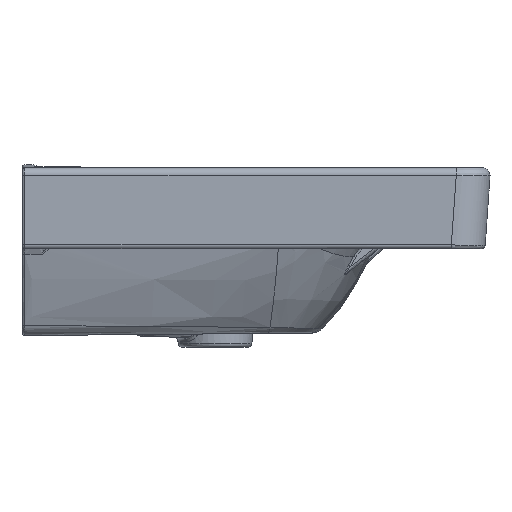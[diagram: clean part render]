
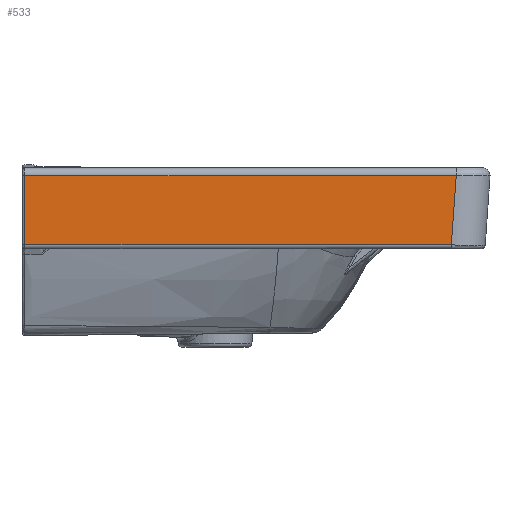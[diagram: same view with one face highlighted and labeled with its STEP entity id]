
A CAD part, left-side view. The second image highlights one B-rep face of the part: STEP entity #533.
In plain terms, the highlighted planar face has unit normal (-1, 0, -0.018).
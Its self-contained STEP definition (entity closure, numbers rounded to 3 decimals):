
#533=ADVANCED_FACE('',(#782),#572,.T.);
#572=PLANE('',#3794);
#782=FACE_OUTER_BOUND('',#1012,.T.);
#1012=EDGE_LOOP('',(#2279,#2280,#2281,#2282));
#1189=LINE('',#14391,#1280);
#1196=LINE('',#17156,#1287);
#1197=LINE('',#17158,#1288);
#1280=VECTOR('',#4126,1.);
#1287=VECTOR('',#4199,1.);
#1288=VECTOR('',#4200,1.);
#2279=ORIENTED_EDGE('',*,*,#3188,.T.);
#2280=ORIENTED_EDGE('',*,*,#3274,.F.);
#2281=ORIENTED_EDGE('',*,*,#3275,.F.);
#2282=ORIENTED_EDGE('',*,*,#3273,.T.);
#2691=VERTEX_POINT('',#14390);
#2692=VERTEX_POINT('',#14392);
#2736=VERTEX_POINT('',#17142);
#2737=VERTEX_POINT('',#17157);
#3188=EDGE_CURVE('',#2692,#2691,#1189,.T.);
#3273=EDGE_CURVE('',#2736,#2692,#3624,.T.);
#3274=EDGE_CURVE('',#2737,#2691,#1196,.T.);
#3275=EDGE_CURVE('',#2736,#2737,#1197,.T.);
#3624=B_SPLINE_CURVE_WITH_KNOTS('',3,(#17147,#17148,#17149,#17150,#17151,
#17152,#17153,#17154),.UNSPECIFIED.,.F.,.F.,(4,2,2,4),(0.,0.583,
0.917,1.),.UNSPECIFIED.);
#3794=AXIS2_PLACEMENT_3D('',#17159,#4201,#4202);
#4126=DIRECTION('',(0.,-1.,0.));
#4199=DIRECTION('',(0.017,0.07,-0.997));
#4200=DIRECTION('',(0.,-1.,0.));
#4201=DIRECTION('',(-1.,0.,-0.017));
#4202=DIRECTION('',(-0.017,0.,1.));
#14390=CARTESIAN_POINT('',(-498.742,-244.918,-80.07));
#14391=CARTESIAN_POINT('',(-498.742,200.,-80.07));
#14392=CARTESIAN_POINT('',(-498.742,197.,-80.07));
#17142=CARTESIAN_POINT('',(-499.998,197.,-8.14));
#17147=CARTESIAN_POINT('',(-499.998,197.,-8.14));
#17148=CARTESIAN_POINT('',(-499.754,197.,-22.118));
#17149=CARTESIAN_POINT('',(-499.51,197.,-36.096));
#17150=CARTESIAN_POINT('',(-499.126,197.,-58.073));
#17151=CARTESIAN_POINT('',(-498.986,197.,-66.072));
#17152=CARTESIAN_POINT('',(-498.812,197.,-76.07));
#17153=CARTESIAN_POINT('',(-498.777,197.,-78.07));
#17154=CARTESIAN_POINT('',(-498.742,197.,-80.07));
#17156=CARTESIAN_POINT('',(-500.,-249.957,-7.997));
#17157=CARTESIAN_POINT('',(-499.998,-249.947,-8.14));
#17158=CARTESIAN_POINT('',(-499.998,-250.,-8.14));
#17159=CARTESIAN_POINT('',(-500.,-250.,-8.));
